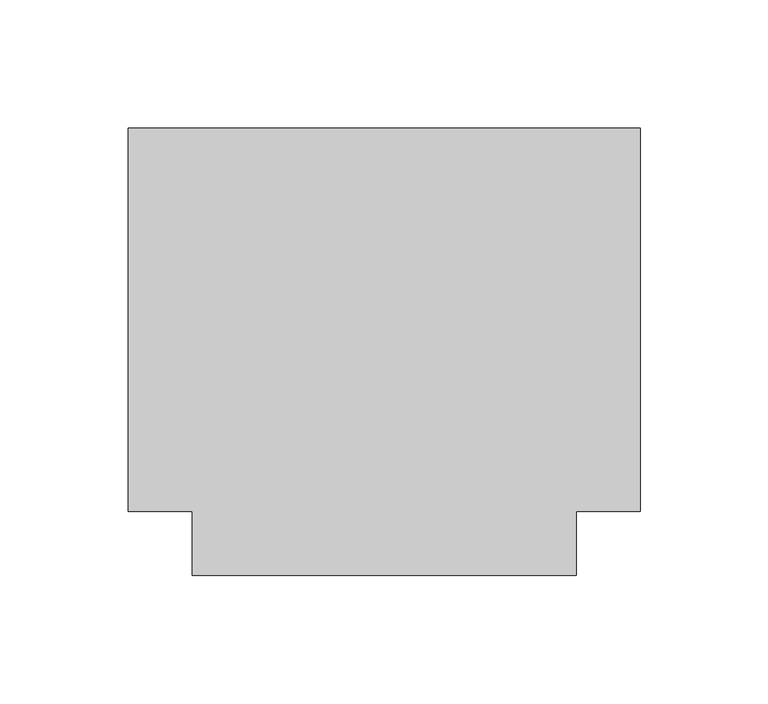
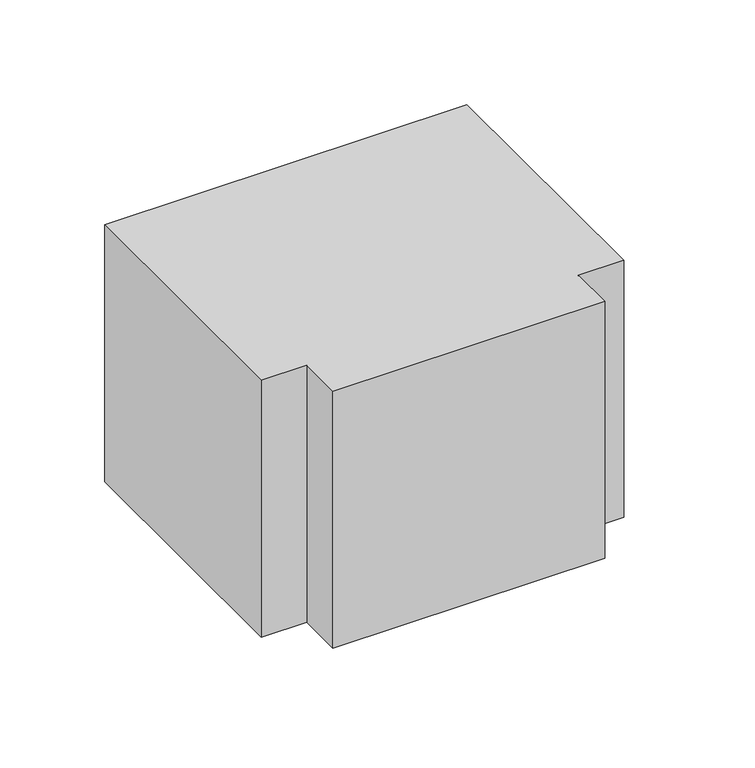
"""IFC4 building model written with IfcOpenShell, lengths in millimetres: duct fitting geometry, M_Te rectangular : Estándar."""

from ifc_helpers import new_model, si_unit, frame, origin, place, context, project, spatial, polyline, outline, extrude, source, transform, mapped, element, save


def duct_fitting_127cc8df(model_context):
    return source(origin(), model_context, "Body", "SweptSolid", [
        extrude(outline(polyline([(-100.0, -75.0), (-100.0, 75.0), (100.0, 75.0), (100.0, -75.0), (75.0, -75.0), (75.0, -100.0), (-75.0, -100.0), (-75.0, -75.0), (-100.0, -75.0)])), frame((0.0, 0.0, -75.0), z_axis=(0.0, 0.0, 1.0), x_axis=(1.0, 0.0, 0.0)), (0.0, 0.0, 1.0), 150.0),
    ])


if __name__ == "__main__":
    model = new_model("IFC4")
    model_context = context("Model", 3, world=origin())
    ifc_project = project(units=[si_unit("LENGTHUNIT", "METRE", prefix="MILLI")], contexts=[model_context])
    site = spatial("IfcSite", under=ifc_project)
    building = spatial("IfcBuilding", under=site)
    placement = place(None, origin())
    duct_fitting_shape = duct_fitting_127cc8df(model_context)
    element("IfcDuctFitting", 1, ObjectType="M_Te rectangular : Estándar", at=placement, inside=building, context=model_context, shape_type="MappedRepresentation", body=[
        mapped(duct_fitting_shape, transform((0.0, 0.0, 0.0), x_axis=(1.0, 0.0, 0.0), y_axis=(0.0, 1.0, 0.0), z_axis=(0.0, 0.0, 1.0))),
    ])
    save(model, "model.ifc")
